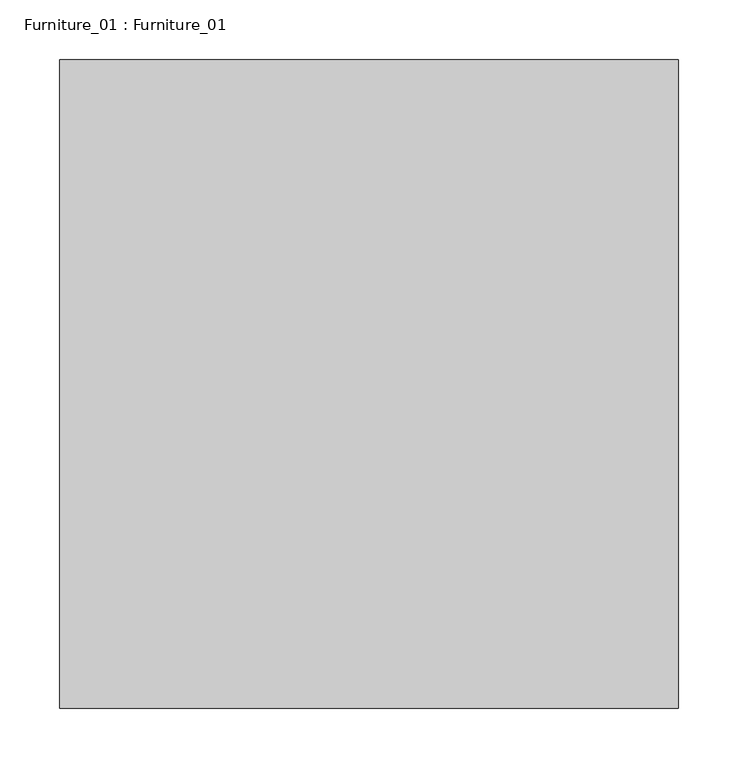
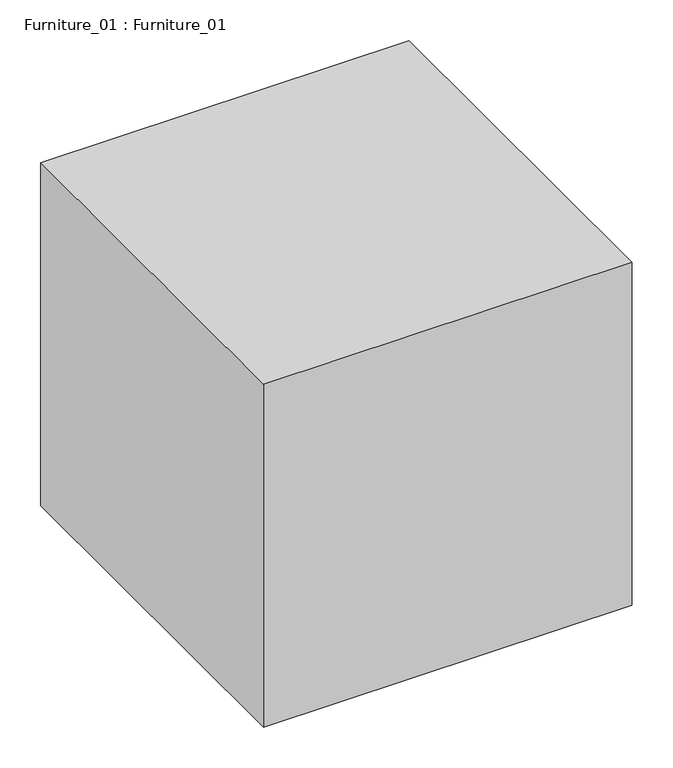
"""IFC4 building model written with IfcOpenShell, lengths in millimetres: furniture geometry, Furniture_01 : Furniture_01."""

from ifc_helpers import new_model, si_unit, frame, origin, place, context, project, spatial, polyline, outline, extrude, source, transform, mapped, element, save


def furniture_01_furniture_01_b6a23fa5(model_context):
    return source(origin(), model_context, "Body", "SweptSolid", [
        extrude(outline(polyline([(1662.6554811, -554.4637616), (1662.6554811, -1099.4637616), (1142.6554811, -1099.4637616), (1142.6554811, -554.4637616), (1662.6554811, -554.4637616)])), frame((0.0, 0.0, 6510.0), z_axis=(0.0, 0.0, 1.0), x_axis=(1.0, 0.0, 0.0)), (0.0, 0.0, 1.0), 511.2731846),
    ])


if __name__ == "__main__":
    model = new_model("IFC4")
    model_context = context("Model", 3, world=origin())
    ifc_project = project(units=[si_unit("LENGTHUNIT", "METRE", prefix="MILLI")], contexts=[model_context])
    site = spatial("IfcSite", under=ifc_project)
    building = spatial("IfcBuilding", under=site)
    placement = place(None, origin())
    furniture_01_furniture_01_shape = furniture_01_furniture_01_b6a23fa5(model_context)
    element("IfcFurniture", 1, ObjectType="Furniture_01 : Furniture_01", at=placement, inside=building, context=model_context, shape_type="MappedRepresentation", body=[
        mapped(furniture_01_furniture_01_shape, transform((0.0, 0.0, 0.0), x_axis=(1.0, 0.0, 0.0), y_axis=(0.0, 1.0, 0.0), z_axis=(0.0, 0.0, 1.0))),
    ])
    save(model, "model.ifc")
